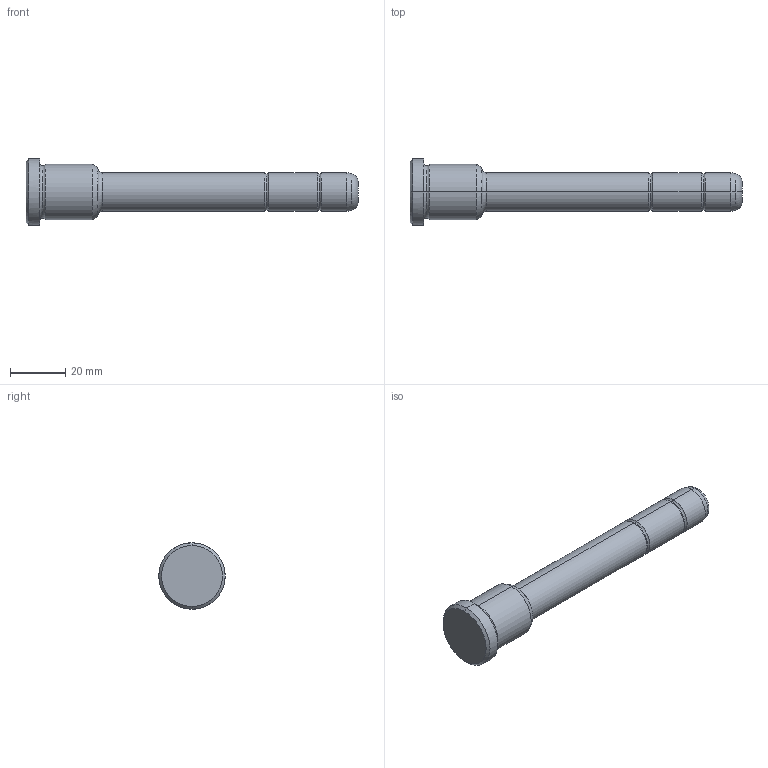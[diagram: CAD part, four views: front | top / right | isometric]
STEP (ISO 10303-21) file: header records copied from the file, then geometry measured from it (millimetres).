
FILE_DESCRIPTION(('CATIA V5 STEP Exchange'),'2;1');
FILE_NAME('C:\Users\Utente\Desktop\IO LAVORO\3D X SITO CF\X SITO\PLASTICA\351\351-14X26X120.stp','2021-08-18T10:02:04+00:00',('none'),('none'),'CATIA Version 5 Release 20 GA (IN-10)','CATIA V5 STEP AP203','none');
FILE_SCHEMA(('CONFIG_CONTROL_DESIGN'));
Length unit declared in the file: millimetre
Products named in the file (1): 351-14X26X120
Bounding box: 120 x 24 x 24 mm (x, y, z)
Volume: 23028.8 mm3; surface area: 6572.5 mm2
Topology: 1 solids, 1 shells, 36 faces, 102 edges, 70 vertices
Faces by surface type: torus 16, cylinder 10, cone 6, plane 4
Entity records: 1292 total; most frequent: CARTESIAN_POINT 321, ORIENTED_EDGE 204, DIRECTION 166, AXIS2_PLACEMENT_3D 115, EDGE_CURVE 102, CIRCLE 78, VERTEX_POINT 70, EDGE_LOOP 38
